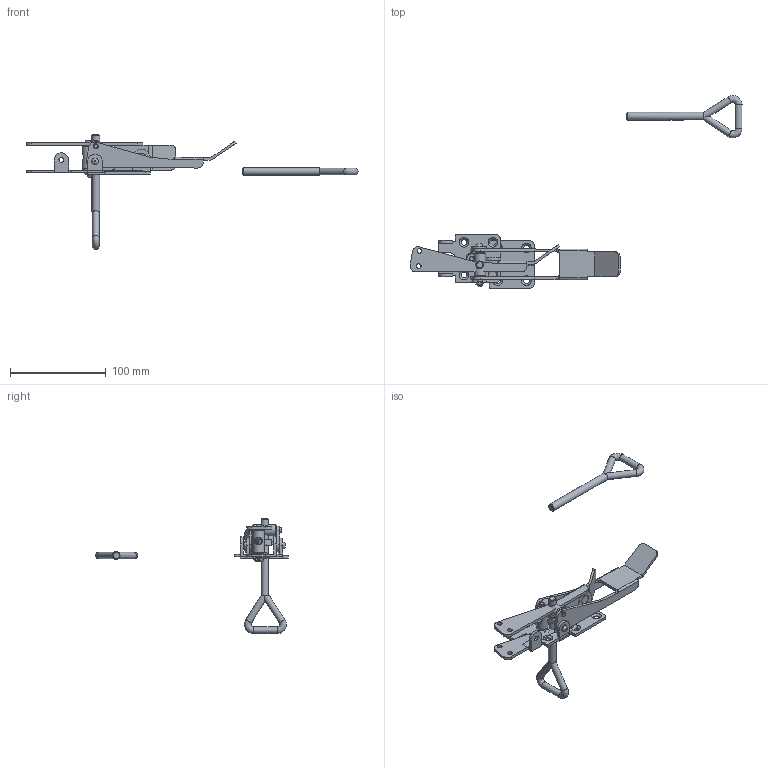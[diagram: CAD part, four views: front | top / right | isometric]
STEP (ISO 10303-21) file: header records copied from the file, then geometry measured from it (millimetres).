
FILE_DESCRIPTION( ( 'Unknown' ), '1' );
FILE_NAME( 'N:/HoKon Zeichnungen/A-1 Sp.Verschlusse/3470-90°/SE/3470-90°.stp', 'Unknown', ( 'Unknown' ), ( 'Unknown' ), 'PSStep 14.0', 'Unknown', ' ' );
FILE_SCHEMA( ( 'AUTOMOTIVE_DESIGN { 1 0 10303 214 1 1 1 1 }' ) );
Length unit declared in the file: millimetre
Products named in the file (7): Assem1; BOL M8 123-3; GRIF 1; BÜGE  L96; TEIL3; GRUNDPLATE 3; SECHSKANTMUTTER - DIN 555-5 - M8
Bounding box: 345.91 x 200.83 x 120 mm (x, y, z)
Volume: 75177.6 mm3; surface area: 55560.4 mm2
Topology: 13 solids, 13 shells, 259 faces, 672 edges, 443 vertices
Faces by surface type: plane 130, cylinder 92, cone 26, bspline 7, torus 4
Full cylindrical faces by diameter (mm): 4.5 x3, 5 x16, 6 x8, 6.647 x4, 7 x9, 8 x2, 10 x2, 12 x2
Entity records: 5186 total; most frequent: CARTESIAN_POINT 1139, DIRECTION 615, ORIENTED_EDGE 560, EDGE_CURVE 280, AXIS2_PLACEMENT_3D 238, VERTEX_POINT 208, EDGE_LOOP 196, FACE_OUTER_BOUND 153
